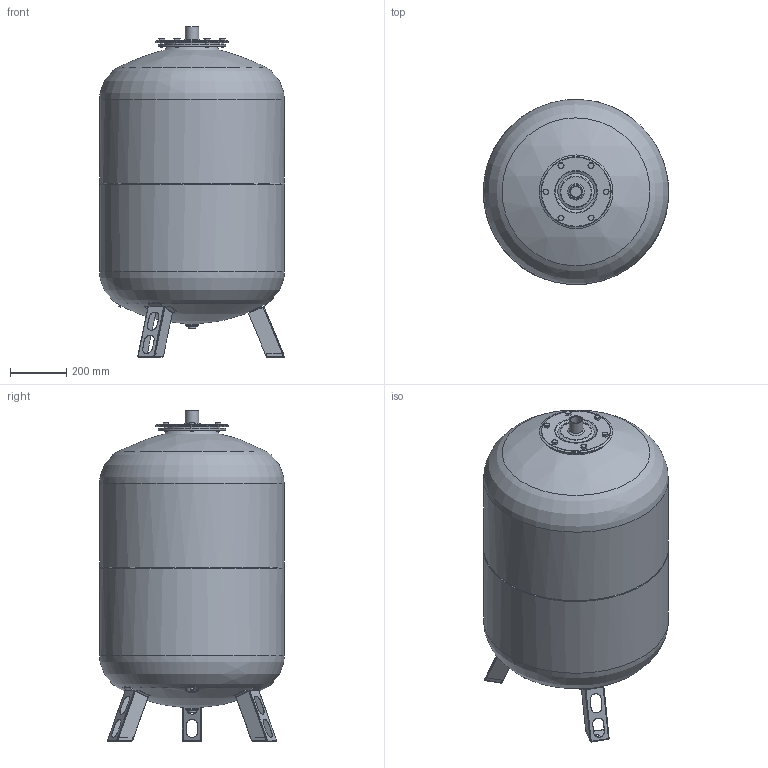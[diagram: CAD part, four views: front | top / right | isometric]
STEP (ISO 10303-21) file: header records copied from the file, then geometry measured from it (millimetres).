
FILE_DESCRIPTION(('STEP AP214'), '1');
FILE_NAME('WRV-300', '', ('UNSPECIFIED'), ('UNSPECIFIED'), 'ASCON STEP Converter 1.3', 'ASCON Math Kernel', '');
FILE_SCHEMA(('AUTOMOTIVE_DESIGN { 1 0 10303 214 3 1 1}'));
Length unit declared in the file: millimetre
Assembly tree (1 placements, depth 2):
  (unnamed)
    (unnamed)
Bounding box: 661.97 x 660.4 x 1180 mm (x, y, z)
Volume: 297734399.1 mm3; surface area: 2647513.2 mm2
Topology: 1 solids, 2 shells, 422 faces, 1147 edges, 756 vertices
Faces by surface type: plane 256, cylinder 97, cone 53, torus 12, sphere 2, bspline 2
Full cylindrical faces by diameter (mm): 3 x1, 4 x1, 4.3 x1, 5.5 x1, 8 x2, 12 x15, 13 x6, 18.6 x1, 26.4 x1, 38.952 x1, 47 x1, 48 x1, 49 x1, 200 x1, 240 x1, 660 x2
Entity records: 21532 total; most frequent: CARTESIAN_POINT 7650, ORIENTED_EDGE 2122, DIRECTION 2101, EDGE_CURVE 1061, AXIS2_PLACEMENT_3D 782, VERTEX_POINT 755, EDGE_LOOP 578, LINE 537
